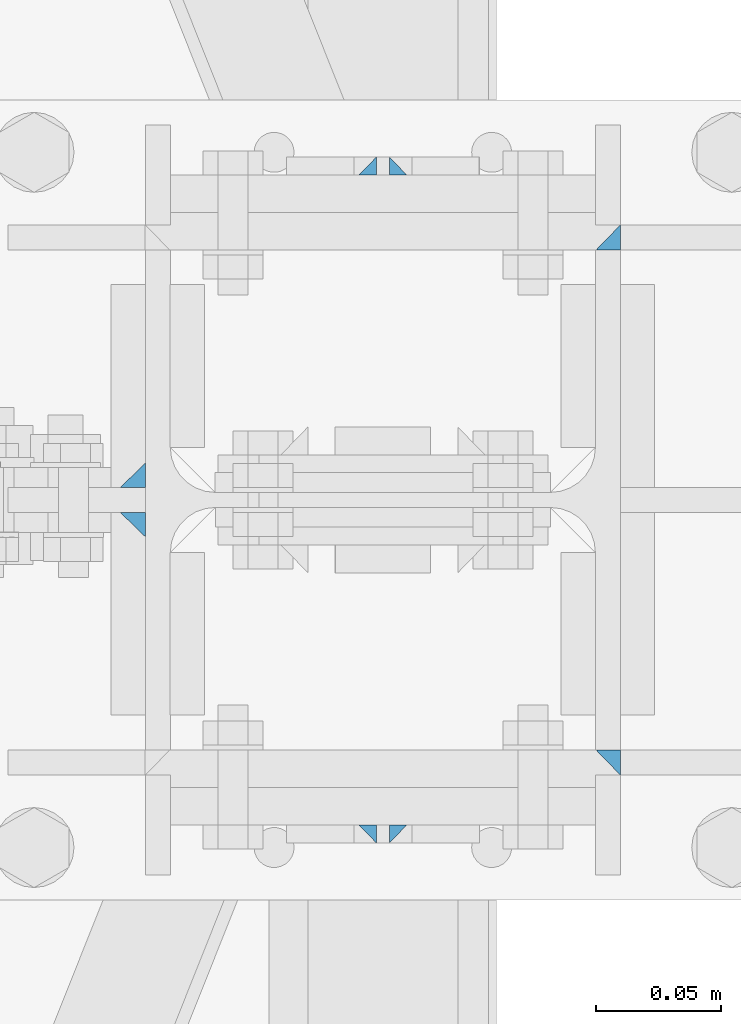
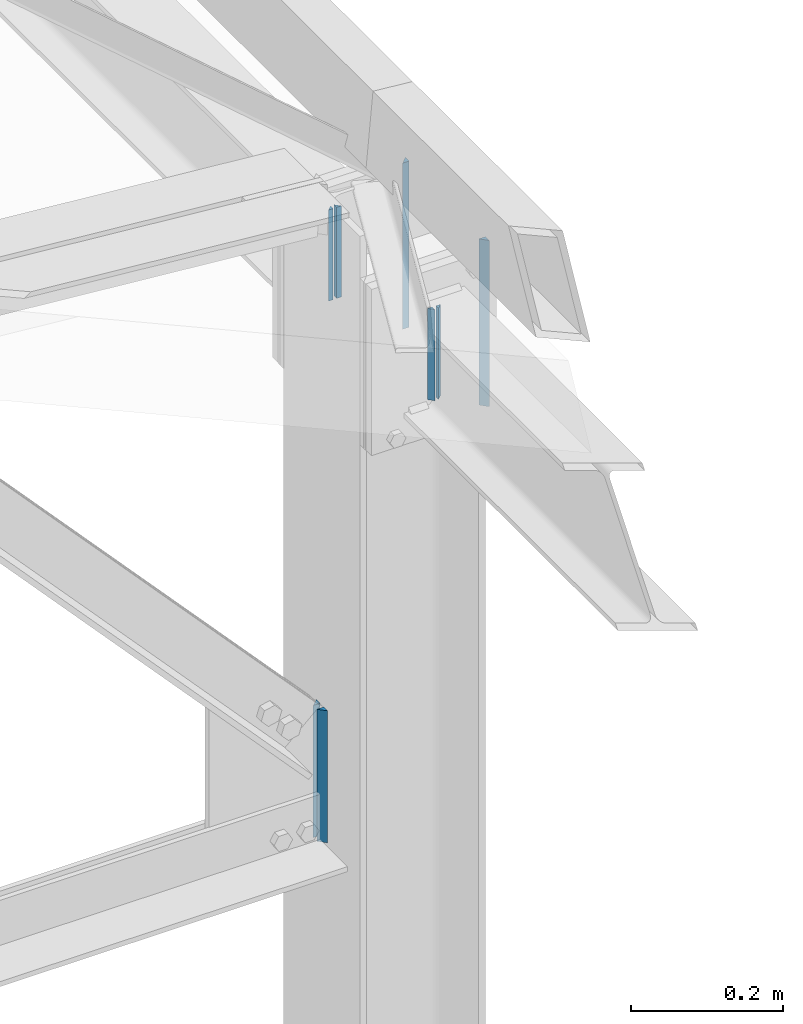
# One storey, part 41 of 251: 12 fasteners.
"""IFC4 building model written with IfcOpenShell, lengths in metres."""

import ifcopenshell
import ifcopenshell.guid

model = None  # the IFC model being written
_history = None  # IfcOwnerHistory: only IFC2X3 demands one
_inside = {}  # id of a spatial element -> (the spatial element, [elements in it])
_under = {}  # id of a project, library or spatial element -> (it, [spatial elements below it])
_declared = {}  # id of a project -> (the project, [libraries it declares])
_typed = {}  # id of a type object -> (the type object, [elements of that type])
_made_of = {}  # id of a material, layer set ... -> (it, [elements and type objects made of it])


def new_model(schema):
    """Start an empty IFC model of exactly this schema.

    Asked for "IFC4X3", IfcOpenShell would pick the latest addendum, in which some entities
    have other attributes; the version numbers below select the first issue.
    IFC2X3 requires an IfcOwnerHistory on every rooted entity: one is made here for all.
    """
    global model, _history
    if schema == "IFC4X3":
        model = ifcopenshell.file(schema_version=(4, 3, 0, 0))
    else:
        model = ifcopenshell.file(schema=schema)
    _inside.clear()
    _under.clear()
    _declared.clear()
    _typed.clear()
    _made_of.clear()
    _history = None
    if model.schema == "IFC2X3":
        org = make("IfcOrganization", Name="unknown")
        user = make(
            "IfcPersonAndOrganization",
            ThePerson=make("IfcPerson", FamilyName="unknown"),
            TheOrganization=org,
        )
        app = make(
            "IfcApplication",
            ApplicationDeveloper=org,
            Version="unknown",
            ApplicationFullName="unknown",
            ApplicationIdentifier="unknown",
        )
        _history = make(
            "IfcOwnerHistory",
            OwningUser=user,
            OwningApplication=app,
            ChangeAction="ADDED",
            CreationDate=0,
        )
    return model


def make(cls, **values):
    """One entity of the class cls with the attributes given. An attribute that is None is left unset."""
    return model.create_entity(
        cls, **{name: value for name, value in values.items() if value is not None}
    )


def rooted(cls, **values):
    """An entity with a GlobalId (a new one), such as an element, a storey or a relation."""
    return make(cls, GlobalId=ifcopenshell.guid.new(), OwnerHistory=_history, **values)


def si_unit(unit_type, name, prefix=None):
    """IfcSIUnit, for example si_unit("LENGTHUNIT", "METRE", prefix="MILLI")."""
    return make("IfcSIUnit", UnitType=unit_type, Prefix=prefix, Name=name)


def assignment(units):
    """IfcUnitAssignment: the units of a project."""
    return None if units is None else make("IfcUnitAssignment", Units=units)


def point(xyz):
    """IfcCartesianPoint."""
    return None if xyz is None else make("IfcCartesianPoint", Coordinates=xyz)


def direction(xyz):
    """IfcDirection."""
    return None if xyz is None else make("IfcDirection", DirectionRatios=xyz)


def frame(location, z_axis=None, x_axis=None):
    """IfcAxis2Placement3D, a coordinate frame: its origin and axes. An axis left out is left unset."""
    return make(
        "IfcAxis2Placement3D",
        Location=point(location),
        Axis=direction(z_axis),
        RefDirection=direction(x_axis),
    )


def origin_with_axes():
    """The frame at (0, 0, 0) with the z axis (0, 0, 1) and the x axis (1, 0, 0) written out."""
    return frame((0.0, 0.0, 0.0), z_axis=(0.0, 0.0, 1.0), x_axis=(1.0, 0.0, 0.0))


def place(relative_to, where):
    """IfcLocalPlacement: puts the frame where relative to a parent placement (None: the world)."""
    return make(
        "IfcLocalPlacement", PlacementRelTo=relative_to, RelativePlacement=where
    )


def context(
    kind, dimensions, precision=None, world=None, true_north=None, identifier=None
):
    """IfcGeometricRepresentationContext, for example the 3D "Model" context."""
    return make(
        "IfcGeometricRepresentationContext",
        ContextIdentifier=identifier,
        ContextType=kind,
        CoordinateSpaceDimension=dimensions,
        Precision=precision,
        WorldCoordinateSystem=world,
        TrueNorth=true_north,
    )


def project(units=None, contexts=None):
    """IfcProject with its units and contexts."""
    return rooted(
        "IfcProject",
        Name="project",
        RepresentationContexts=contexts,
        UnitsInContext=assignment(units),
    )


def spatial(cls, under=None, at=None, **own):
    """A site, building, storey or space (cls), placed at a placement, below another one or the project."""
    s = rooted(cls, ObjectPlacement=at, **own)
    if under is not None:
        _under.setdefault(under.id(), (under, []))[1].append(s)
    return s


def polyline(points):
    """IfcPolyline through the points."""
    return make("IfcPolyline", Points=[point(p) for p in points])


def outline(outer, holes=None, kind="AREA"):
    """IfcArbitraryClosedProfileDef: a profile drawn as a closed curve; with holes, ...WithVoids."""
    if holes is None:
        return make("IfcArbitraryClosedProfileDef", ProfileType=kind, OuterCurve=outer)
    return make(
        "IfcArbitraryProfileDefWithVoids",
        ProfileType=kind,
        OuterCurve=outer,
        InnerCurves=holes,
    )


def extrude(swept, where, along, depth):
    """IfcExtrudedAreaSolid: the profile swept, set in the frame where, extruded along a direction by depth."""
    return make(
        "IfcExtrudedAreaSolid",
        SweptArea=swept,
        Position=where,
        ExtrudedDirection=direction(along),
        Depth=depth,
    )


def shape(context_of_items, identifier, shape_type, items):
    """IfcShapeRepresentation: the items that make up one representation, for example the "Body"."""
    return make(
        "IfcShapeRepresentation",
        ContextOfItems=context_of_items,
        RepresentationIdentifier=identifier,
        RepresentationType=shape_type,
        Items=items,
    )


def made_of(thing, what):
    """Note that an element or type object is made of a material, layer set ...; save() writes the relation."""
    if what is not None:
        _made_of.setdefault(what.id(), (what, []))[1].append(thing)
    return thing


def type_object(cls, material=None, **own):
    """A type object (cls), such as IfcWallType, which elements share."""
    return made_of(rooted(cls, **own), material)


def element(
    cls,
    number,
    at=None,
    inside=None,
    cuts=None,
    type_object=None,
    material=None,
    context=None,
    identifier="Body",
    shape_type=None,
    held_by="IfcProductDefinitionShape",
    body=None,
    shapes=None,
    **own,
):
    """One element of the class cls, such as IfcWall. Its Tag is "e" and its number.

    at: its placement. inside: the storey or other place that contains it. cuts: it is an
    opening in that element (IfcRelVoidsElement). A single representation is given by context,
    identifier, shape_type and body (its items); several are given by shapes. held_by: the class
    of the entity that holds the representations. save() writes the other relations.
    """
    e = rooted(cls, Tag="e%d" % number, ObjectPlacement=at, **own)
    if body is not None:
        shapes = [shape(context, identifier, shape_type, body)]
    if shapes is not None:
        e.Representation = make(held_by, Representations=shapes)
    if inside is not None:
        _inside.setdefault(inside.id(), (inside, []))[1].append(e)
    if cuts is not None:
        rooted(
            "IfcRelVoidsElement", RelatingBuildingElement=cuts, RelatedOpeningElement=e
        )
    if type_object is not None:
        _typed.setdefault(type_object.id(), (type_object, []))[1].append(e)
    return made_of(e, material)


def aggregate(whole, parts):
    """IfcRelAggregates: a whole, such as a stair, and the parts it consists of."""
    return rooted("IfcRelAggregates", RelatingObject=whole, RelatedObjects=parts)


def save(model, path):
    """Write the relations noted so far, then the file.

    IfcRelAggregates (storeys below a building ...), IfcRelContainedInSpatialStructure (elements
    in a storey), IfcRelDefinesByType, IfcRelAssociatesMaterial and IfcRelDeclares: one each for
    every whole, place, type object, material and project.
    """
    for whole, parts in _under.values():
        aggregate(whole, parts)
    for where, things in _inside.values():
        rooted(
            "IfcRelContainedInSpatialStructure",
            RelatedElements=things,
            RelatingStructure=where,
        )
    for kind, things in _typed.values():
        rooted("IfcRelDefinesByType", RelatedObjects=things, RelatingType=kind)
    for what, things in _made_of.values():
        rooted("IfcRelAssociatesMaterial", RelatedObjects=things, RelatingMaterial=what)
    for by, libraries in _declared.values():
        rooted("IfcRelDeclares", RelatingContext=by, RelatedDefinitions=libraries)
    model.write(path)


model = new_model("IFC4")

# Units and contexts
model_context = context("Model", 3, precision=1e-05, world=origin_with_axes())
ifc_project = project(units=[si_unit("LENGTHUNIT", "METRE"), si_unit("AREAUNIT", "SQUARE_METRE"), si_unit("VOLUMEUNIT", "CUBIC_METRE"), si_unit("MASSUNIT", "GRAM", prefix="KILO"), si_unit("TIMEUNIT", "SECOND"), si_unit("PLANEANGLEUNIT", "RADIAN"), si_unit("SOLIDANGLEUNIT", "STERADIAN"), si_unit("THERMODYNAMICTEMPERATUREUNIT", "DEGREE_CELSIUS")], contexts=[model_context])

# Site, building, storey
placement_1 = place(None, origin_with_axes())
site = spatial("IfcSite", under=ifc_project, at=placement_1, Name="Italia", CompositionType="ELEMENT")
building = spatial("IfcBuilding", under=site, at=placement_1, Name="Deposito", CompositionType="ELEMENT")
storey = spatial("IfcBuildingStorey", under=building, at=placement_1, Name="Storey 0", CompositionType="ELEMENT", Elevation=0.0)

# Fasteners
fastener_type_1 = type_object("IfcFastenerType", Name="Collegamenti -064_-065 -065_-064 -065_-066 -066_-065 -066_-067 -067_-066 -067_-068 -068_-067", PredefinedType="WELD")
placement_2 = place(placement_1, origin_with_axes())
fastener_1_placement = place(placement_2, origin_with_axes())
element("IfcFastener", 1, at=fastener_1_placement, inside=storey, type_object=fastener_type_1, Name="Collegamenti -064_-065 -065_-064 -065_-066 -066_-065 -066_-067 -067_-066 -067_-068 -068_-067", context=model_context, shape_type="SweptSolid", body=[
    extrude(outline(polyline([(0.0, 0.0), (-0.00717354, 0.00695801), (0.0, 0.00695801), (0.0, 0.0)])), frame((20.0096, 9.87005, 5.72695), z_axis=(0.0, 0.0, 1.0), x_axis=(0.0, 1.0, 0.0)), (0.0, 0.0, 1.0), 0.146099),
])
fastener_type_2 = type_object("IfcFastenerType", Name="Collegamenti -064_-065 -065_-064 -065_-066 -066_-065 -066_-067 -067_-066 -067_-068 -068_-067", PredefinedType="WELD")
fastener_2_placement = place(placement_2, origin_with_axes())
element("IfcFastener", 2, at=fastener_2_placement, inside=storey, type_object=fastener_type_2, Name="Collegamenti -064_-065 -065_-064 -065_-066 -066_-065 -066_-067 -067_-066 -067_-068 -068_-067", context=model_context, shape_type="SweptSolid", body=[
    extrude(outline(polyline([(0.0, 0.0), (-0.00717354, 0.00695801), (0.0, 0.00695801), (0.0, 0.0)])), frame((19.9904, 9.87005, 5.87305), z_axis=(0.0, 0.0, -1.0), x_axis=(0.0, 1.0, 0.0)), (0.0, 0.0, 1.0), 0.146099),
])
fastener_type_3 = type_object("IfcFastenerType", Name="Collegamenti -064_-065 -065_-064 -065_-066 -066_-065 -066_-067 -067_-066 -067_-068 -068_-067", PredefinedType="WELD")
fastener_3_placement = place(placement_2, origin_with_axes())
element("IfcFastener", 3, at=fastener_3_placement, inside=storey, type_object=fastener_type_3, Name="Collegamenti -064_-065 -065_-064 -065_-066 -066_-065 -066_-067 -067_-066 -067_-068 -068_-067", context=model_context, shape_type="SweptSolid", body=[
    extrude(outline(polyline([(0.0, 0.0), (-0.00717354, 0.00695801), (0.0, 0.00695801), (0.0, 0.0)])), frame((20.0096, 9.87005, 5.72695), z_axis=(0.0, 0.0, 1.0), x_axis=(0.0, 1.0, 0.0)), (0.0, 0.0, 1.0), 0.146099),
])
fastener_type_4 = type_object("IfcFastenerType", Name="Collegamenti -064_-065 -065_-064 -065_-066 -066_-065 -066_-067 -067_-066 -067_-068 -068_-067", PredefinedType="WELD")
fastener_4_placement = place(placement_2, origin_with_axes())
element("IfcFastener", 4, at=fastener_4_placement, inside=storey, type_object=fastener_type_4, Name="Collegamenti -064_-065 -065_-064 -065_-066 -066_-065 -066_-067 -067_-066 -067_-068 -068_-067", context=model_context, shape_type="SweptSolid", body=[
    extrude(outline(polyline([(0.0, 0.0), (-0.00717354, 0.00695801), (0.0, 0.00695801), (0.0, 0.0)])), frame((19.9904, 9.87005, 5.87305), z_axis=(0.0, 0.0, -1.0), x_axis=(0.0, 1.0, 0.0)), (0.0, 0.0, 1.0), 0.146099),
])
fastener_type_5 = type_object("IfcFastenerType", Name="Collegamenti -064_-065 -065_-064 -065_-066 -066_-065 -066_-067 -067_-066 -067_-068 -068_-067", PredefinedType="WELD")
fastener_5_placement = place(placement_2, origin_with_axes())
element("IfcFastener", 5, at=fastener_5_placement, inside=storey, type_object=fastener_type_5, Name="Collegamenti -064_-065 -065_-064 -065_-066 -066_-065 -066_-067 -067_-066 -067_-068 -068_-067", context=model_context, shape_type="SweptSolid", body=[
    extrude(outline(polyline([(0.0, 0.0), (-0.0101738, 0.00986862), (0.0, 0.00986862), (0.0, 0.0)])), frame((20.0852, 9.90005, 5.93305), z_axis=(0.0, 0.0, -1.0), x_axis=(0.0, 1.0, 0.0)), (0.0, 0.0, 1.0), 0.2661),
])
fastener_type_6 = type_object("IfcFastenerType", Name="Collegamenti -064_-065 -065_-064 -065_-066 -066_-065 -066_-067 -067_-066 -067_-068 -068_-067", PredefinedType="WELD")
fastener_6_placement = place(placement_2, origin_with_axes())
element("IfcFastener", 6, at=fastener_6_placement, inside=storey, type_object=fastener_type_6, Name="Collegamenti -064_-065 -065_-064 -065_-066 -066_-065 -066_-067 -067_-066 -067_-068 -068_-067", context=model_context, shape_type="SweptSolid", body=[
    extrude(outline(polyline([(0.0, 0.0), (0.00717354, -0.00695801), (0.0, -0.00695801), (0.0, 0.0)])), frame((19.9904, 10.1299, 5.72695), z_axis=(0.0, 0.0, 1.0), x_axis=(0.0, 1.0, 0.0)), (0.0, 0.0, 1.0), 0.146099),
])
fastener_type_7 = type_object("IfcFastenerType", Name="Collegamenti -064_-065 -065_-064 -065_-066 -066_-065 -066_-067 -067_-066 -067_-068 -068_-067", PredefinedType="WELD")
fastener_7_placement = place(placement_2, origin_with_axes())
element("IfcFastener", 7, at=fastener_7_placement, inside=storey, type_object=fastener_type_7, Name="Collegamenti -064_-065 -065_-064 -065_-066 -066_-065 -066_-067 -067_-066 -067_-068 -068_-067", context=model_context, shape_type="SweptSolid", body=[
    extrude(outline(polyline([(0.0, 0.0), (0.00717354, -0.00695801), (0.0, -0.00695801), (0.0, 0.0)])), frame((20.0096, 10.1299, 5.87305), z_axis=(0.0, 0.0, -1.0), x_axis=(0.0, 1.0, 0.0)), (0.0, 0.0, 1.0), 0.146099),
])
fastener_type_8 = type_object("IfcFastenerType", Name="Collegamenti -064_-065 -065_-064 -065_-066 -066_-065 -066_-067 -067_-066 -067_-068 -068_-067", PredefinedType="WELD")
fastener_8_placement = place(placement_2, origin_with_axes())
element("IfcFastener", 8, at=fastener_8_placement, inside=storey, type_object=fastener_type_8, Name="Collegamenti -064_-065 -065_-064 -065_-066 -066_-065 -066_-067 -067_-066 -067_-068 -068_-067", context=model_context, shape_type="SweptSolid", body=[
    extrude(outline(polyline([(0.0, 0.0), (0.00717354, -0.00695801), (0.0, -0.00695801), (0.0, 0.0)])), frame((19.9904, 10.1299, 5.72695), z_axis=(0.0, 0.0, 1.0), x_axis=(0.0, 1.0, 0.0)), (0.0, 0.0, 1.0), 0.146099),
])
fastener_type_9 = type_object("IfcFastenerType", Name="Collegamenti -064_-065 -065_-064 -065_-066 -066_-065 -066_-067 -067_-066 -067_-068 -068_-067", PredefinedType="WELD")
fastener_9_placement = place(placement_2, origin_with_axes())
element("IfcFastener", 9, at=fastener_9_placement, inside=storey, type_object=fastener_type_9, Name="Collegamenti -064_-065 -065_-064 -065_-066 -066_-065 -066_-067 -067_-066 -067_-068 -068_-067", context=model_context, shape_type="SweptSolid", body=[
    extrude(outline(polyline([(0.0, 0.0), (0.00717354, -0.00695801), (0.0, -0.00695801), (0.0, 0.0)])), frame((20.0096, 10.1299, 5.87305), z_axis=(0.0, 0.0, -1.0), x_axis=(0.0, 1.0, 0.0)), (0.0, 0.0, 1.0), 0.146099),
])
fastener_type_10 = type_object("IfcFastenerType", Name="Collegamenti -064_-065 -065_-064 -065_-066 -066_-065 -066_-067 -067_-066 -067_-068 -068_-067", PredefinedType="WELD")
fastener_10_placement = place(placement_2, origin_with_axes())
element("IfcFastener", 10, at=fastener_10_placement, inside=storey, type_object=fastener_type_10, Name="Collegamenti -064_-065 -065_-064 -065_-066 -066_-065 -066_-067 -067_-066 -067_-068 -068_-067", context=model_context, shape_type="SweptSolid", body=[
    extrude(outline(polyline([(0.0, 0.0), (0.0101738, -0.00986862), (0.0, -0.00986862), (0.0, 0.0)])), frame((20.0852, 10.0999, 5.66695), z_axis=(0.0, 0.0, 1.0), x_axis=(0.0, 1.0, 0.0)), (0.0, 0.0, 1.0), 0.2661),
])
fastener_type_11 = type_object("IfcFastenerType", Name="Reticolare 4", PredefinedType="WELD")
fastener_11_placement = place(placement_2, origin_with_axes())
element("IfcFastener", 11, at=fastener_11_placement, inside=storey, type_object=fastener_type_11, Name="Reticolare 4", context=model_context, shape_type="SweptSolid", body=[
    extrude(outline(polyline([(0.0, 0.0), (-0.00986862, -0.0101738), (-0.00986862, 0.0), (0.0, 0.0)])), frame((19.9051, 10.0148, 5.18881), z_axis=(0.0, 0.0, -1.0), x_axis=(0.0, 1.0, 0.0)), (0.0, 0.0, 1.0), 0.211377),
])
fastener_type_12 = type_object("IfcFastenerType", Name="Reticolare 4", PredefinedType="WELD")
fastener_12_placement = place(placement_2, origin_with_axes())
element("IfcFastener", 12, at=fastener_12_placement, inside=storey, type_object=fastener_type_12, Name="Reticolare 4", context=model_context, shape_type="SweptSolid", body=[
    extrude(outline(polyline([(0.0, 0.0), (0.00986862, 0.0101738), (0.00986862, 0.0), (0.0, 0.0)])), frame((19.9051, 9.98518, 4.97743), z_axis=(0.0, 0.0, 1.0), x_axis=(0.0, 1.0, 0.0)), (0.0, 0.0, 1.0), 0.211377),
])

save(model, "model.ifc")
